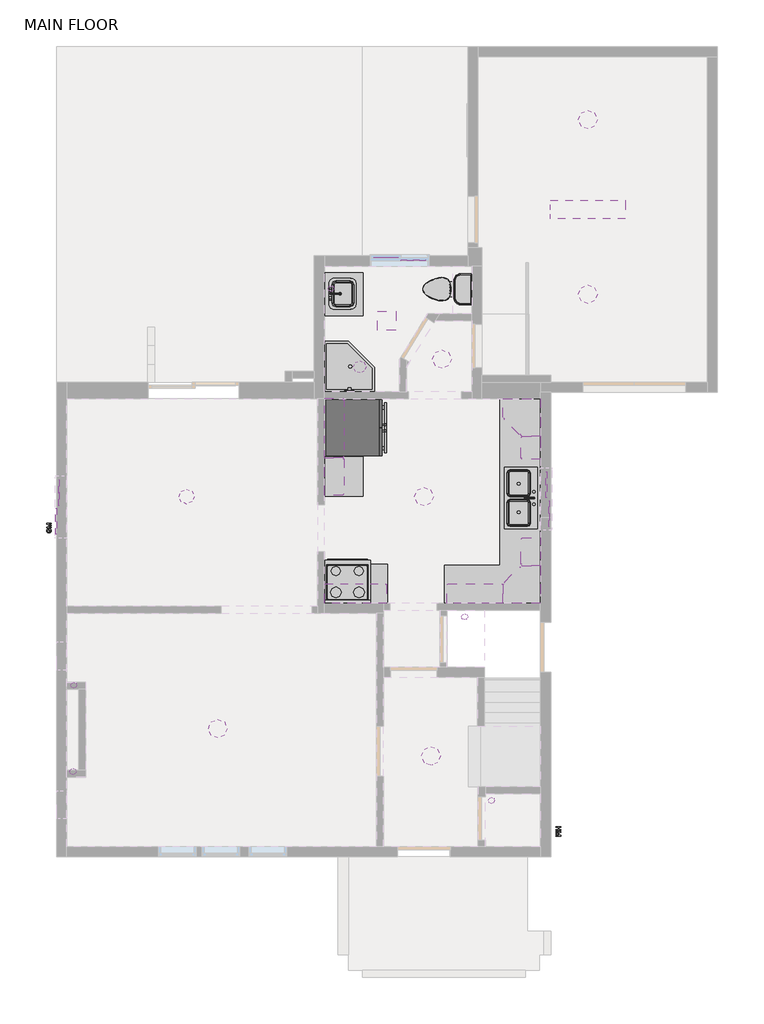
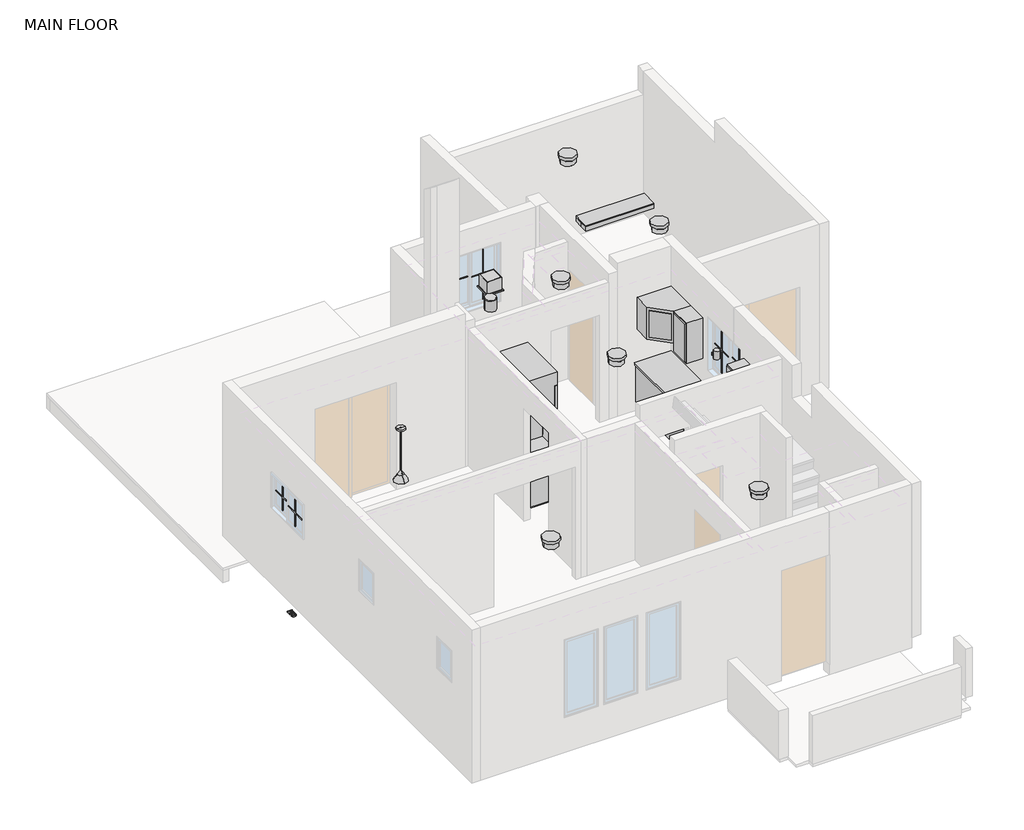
# One storey, part 3 of 3: 17 proxies, 15 light fixtures, 8 furniture elements, 5 flow terminals.
"""IFC4 building model written with IfcOpenShell, lengths in millimetres."""

from ifc_helpers import new_model, si_unit, point, frame, frame_2d, origin, origin_with_axes, place, context, project, spatial, polyline, circle_curve, trimmed, segment, composite_curve, outline, extrude, faceted_brep, transform, mapped, element, save
from ifc_brep_helpers import plane_surface, revolved_surface, advanced_brep
from components import countertop_rectangle_shape_base_1525_x_762mm_0aa604ed, countertop_rectangle_shape_base_1525_x_762mm_2a073e35, exhaust_fan_family1_d98d6599, fridge_900mm_2d12c2bd, gas_meter_family3_9a0b9436, hydro_meter_family3_463d816c, muntin_pattern_2x2_muntin_pattern_2x2_48eb26af, muntin_pattern_2x2_muntin_pattern_2x2_fa83fa09, muntin_pattern_2x2_muntin_pattern_2x2_ace57a09, muntin_pattern_2x2_muntin_pattern_2x2_70805f2e, stove_stove_9706c03c, flow_terminal_a9700879, bath_basin_500_x_440mm_22030706, flow_terminal_49109885, kitchen_double_sink_1000_x_535mm_b63c062c, toilet_toilet_5cb52bd4, toilet_toilet_183bbd19, furniture_a0a301ae, furniture_29d15f0f, furniture_aa3ecf69, furniture_b6349292, furniture_66714404, furniture_e144d364, furniture_e27291b7, furniture_ead23de6, light_fixture_03aafe97, pendant_light_2_0_4026ff0f, light_fixture_643521e1, suspended_fluorescent_light_suspended_fluorescent_light_82c183d2, light_fixture_7ac736ae, light_fixture_691dc656, light_fixture_968d4b6a

model = new_model("IFC4")

# Units and contexts
model_context = context("Model", 3, world=origin())
ifc_project = project(units=[si_unit("LENGTHUNIT", "METRE", prefix="MILLI")], contexts=[model_context])

# Site, building, storey
site = spatial("IfcSite", under=ifc_project)
building = spatial("IfcBuilding", under=site)
storey = spatial("IfcBuildingStorey", under=building, Name="MAIN FLOOR", Elevation=0.0)

# Proxies
placement = place(None, origin())
element("IfcBuildingElementProxy", 1, Name="Countertop- L  Shape base : 1525 x 762mm", ObjectType="Countertop- L  Shape base : 1525 x 762mm", at=placement, inside=storey, context=model_context, shape_type="SolidModel", body=[
    extrude(outline(polyline([(1853.0, 2776.35), (252.1895211, 2776.35), (252.1895211, 3413.1678021), (1154.5, 3413.1678021), (1154.5, 6140.45), (1853.0, 6140.45), (1853.0, 2776.35)]), holes=[polyline([(1764.1, 4004.5), (1764.1, 5004.5), (1229.1, 5004.5), (1229.1, 4004.5), (1764.1, 4004.5)])]), frame((0.0, 0.0, 876.3), z_axis=(0.0, 0.0, 1.0), x_axis=(1.0, 0.0, 0.0)), (0.0, 0.0, 1.0), 38.1),
    extrude(outline(polyline([(372.8395211, 3317.7632183), (1275.15, 3317.7632183), (1275.15, 6038.85), (1713.3, 6038.85), (1713.3, 2897.0), (372.8395211, 2897.0), (372.8395211, 3317.7632183)])), origin_with_axes(), (0.0, 0.0, 1.0), 101.6),
    faceted_brep([(1173.55, 6121.4, 101.6), (1814.9, 6121.4, 101.6), (1814.9, 2795.4, 101.6), (271.2395211, 2795.4, 101.6), (271.2395211, 3394.1178021, 101.6), (1173.55, 3394.1178021, 101.6), (1173.55, 6121.4, 876.3), (1173.55, 3394.1178021, 876.3), (271.2395211, 3394.1178021, 876.3), (271.2395211, 2795.4, 876.3), (1814.9, 2795.4, 876.3), (1814.9, 6121.4, 876.3), (1764.1, 5004.5, 876.3), (1764.1, 4004.5, 876.3), (1229.1, 4004.5, 876.3), (1229.1, 5004.5, 876.3), (1764.1, 4004.5, 366.7605265), (1764.1, 5004.5, 366.7605265), (1229.1, 5004.5, 366.7605265), (1229.1, 4004.5, 366.7605265)], [[[0, 1, 2, 3, 4, 5]], [[6, 7, 8, 9, 10, 11], [12, 13, 14, 15]], [[0, 5, 7, 6]], [[3, 2, 10, 9]], [[2, 1, 11, 10]], [[5, 4, 8, 7]], [[4, 3, 9, 8]], [[1, 0, 6, 11]], [[16, 17, 18, 19]], [[17, 16, 13, 12]], [[18, 17, 12, 15]], [[19, 18, 15, 14]], [[16, 19, 14, 13]]]),
])
element("IfcBuildingElementProxy", 2, Name="Countertop- Rectangle shape base : 1525 x 762mm", ObjectType="Countertop- Rectangle shape base : 1525 x 762mm", at=placement, inside=storey, context=model_context, shape_type="SolidModel", body=[
    extrude(outline(polyline([(-1195.0, 7589.65), (-1601.4, 7589.65), (-1601.4, 8046.85), (-1195.0, 8046.85), (-1195.0, 7589.65)])), origin_with_axes(), (0.0, 0.0, 1.0), 101.6),
    advanced_brep(
    [(-1093.4, 7488.05, 101.6), (-1703.0, 7488.05, 101.6), (-1703.0, 8148.45, 101.6), (-1093.4, 8148.45, 101.6), (-1093.4, 7488.05, 876.3), (-1093.4, 8148.45, 876.3), (-1703.0, 8148.45, 876.3), (-1703.0, 7488.05, 876.3), (-1184.5500001, 7663.5, 876.3), (-1273.4499999, 7574.6000001, 876.3), (-1561.0500001, 7574.6000001, 876.3), (-1624.5500001, 7638.1000001, 876.3), (-1624.5500001, 8011.1, 876.3), (-1561.0500001, 8074.6, 876.3), (-1268.9000672, 8074.6, 876.3), (-1184.5500001, 7990.2499329, 876.3), (-1273.4499999, 7574.6000001, 562.7380761), (-1184.5500001, 7663.5, 562.7380761), (-1184.5500001, 7990.2499329, 562.7380761), (-1268.9000672, 8074.6, 562.7380761), (-1561.0500001, 8074.6, 562.7380761), (-1624.5500001, 8011.1, 562.7380761), (-1624.5500001, 7638.1000001, 562.7380761), (-1561.0500001, 7574.6000001, 562.7380761)],
    [
        (0, 1),
        (1, 2),
        (2, 3),
        (3, 0),
        (4, 5),
        (5, 6),
        (6, 7),
        (7, 4),
        (8, 9, circle_curve(frame((-1273.4499999, 7663.5, 876.3), z_axis=(0.0, 0.0, -1.0), x_axis=(0.0, 1.0, 0.0)), 88.8999999)),
        (9, 10),
        (10, 11, circle_curve(frame((-1561.0500001, 7638.1000001, 876.3), z_axis=(0.0, 0.0, -1.0), x_axis=(0.0, 1.0, 0.0)), 63.5)),
        (11, 12),
        (12, 13, circle_curve(frame((-1561.0500001, 8011.1, 876.3), z_axis=(0.0, 0.0, -1.0), x_axis=(0.0, 1.0, 0.0)), 63.5)),
        (13, 14),
        (14, 15, circle_curve(frame((-1268.9000672, 7990.2499329, 876.3), z_axis=(0.0, 0.0, -1.0), x_axis=(0.0, 1.0, 0.0)), 84.3500671)),
        (15, 8),
        (3, 5),
        (4, 0),
        (2, 6),
        (1, 7),
        (16, 17, circle_curve(frame((-1273.4499999, 7663.5, 562.7380761), z_axis=(0.0, 0.0, 1.0), x_axis=(0.0, 1.0, 0.0)), 88.8999999)),
        (17, 18),
        (18, 19, circle_curve(frame((-1268.9000672, 7990.2499329, 562.7380761), z_axis=(0.0, 0.0, 1.0), x_axis=(0.0, 1.0, 0.0)), 84.3500671)),
        (19, 20),
        (20, 21, circle_curve(frame((-1561.0500001, 8011.1, 562.7380761), z_axis=(0.0, 0.0, 1.0), x_axis=(0.0, 1.0, 0.0)), 63.5)),
        (21, 22),
        (22, 23, circle_curve(frame((-1561.0500001, 7638.1000001, 562.7380761), z_axis=(0.0, 0.0, 1.0), x_axis=(0.0, 1.0, 0.0)), 63.5)),
        (23, 16),
        (16, 9),
        (8, 17),
        (15, 18),
        (14, 19),
        (13, 20),
        (12, 21),
        (11, 22),
        (10, 23),
    ],
    [
        plane_surface(frame((-1093.4, 8148.45, 101.6), z_axis=(0.0, 0.0, -1.0), x_axis=(0.0, -1.0, 0.0))),
        plane_surface(frame((-1093.4, 8148.45, 876.3), z_axis=(0.0, 0.0, 1.0), x_axis=(0.0, 1.0, 0.0))),
        plane_surface(frame((-1093.4, 7488.05, 876.3), z_axis=(1.0, 0.0, 0.0), x_axis=(0.0, 0.0, -1.0))),
        plane_surface(frame((-1093.4, 8148.45, 876.3), z_axis=(0.0, 1.0, 0.0), x_axis=(0.0, 0.0, -1.0))),
        plane_surface(frame((-1703.0, 8148.45, 876.3), z_axis=(-1.0, 0.0, 0.0), x_axis=(0.0, 0.0, -1.0))),
        plane_surface(frame((-1703.0, 7488.05, 876.3), z_axis=(0.0, -1.0, 0.0), x_axis=(0.0, 0.0, -1.0))),
        plane_surface(frame((-1273.4499999, 7752.3999999, 562.7380761), z_axis=(0.0, 0.0, 1.0), x_axis=(1.0, 0.0, 0.0))),
        revolved_surface(polyline([(-1273.4499999, 7752.3999999, 876.3), (-1273.4499999, 7752.3999999, 562.7380761)]), (-1273.4499999, 7663.5, 562.7380761), (0.0, 0.0, 1.0)),
        plane_surface(frame((-1184.5500001, 7663.5, 965.2), z_axis=(-1.0, 0.0, 0.0), x_axis=(0.0, 0.0, -1.0))),
        revolved_surface(polyline([(-1268.9000672, 8074.6, 876.3), (-1268.9000672, 8074.6, 562.7380761)]), (-1268.9000672, 7990.2499329, 562.7380761), (0.0, 0.0, 1.0)),
        plane_surface(frame((-1268.9000672, 8074.6, 965.2), z_axis=(0.0, -1.0, 0.0), x_axis=(0.0, 0.0, -1.0))),
        revolved_surface(polyline([(-1561.0500001, 8074.6, 876.3), (-1561.0500001, 8074.6, 562.7380761)]), (-1561.0500001, 8011.1, 562.7380761), (0.0, 0.0, 1.0)),
        plane_surface(frame((-1624.5500001, 8011.1, 965.2), z_axis=(1.0, 0.0, 0.0), x_axis=(0.0, 0.0, -1.0))),
        revolved_surface(polyline([(-1561.0500001, 7701.6000001, 876.3), (-1561.0500001, 7701.6000001, 562.7380761)]), (-1561.0500001, 7638.1000001, 562.7380761), (0.0, 0.0, 1.0)),
        plane_surface(frame((-1561.0500001, 7574.6000001, 965.2), z_axis=(0.0, 1.0, 0.0), x_axis=(0.0, 0.0, -1.0))),
    ],
    [
        (0, [[1, 2, 3, 4]]),
        (1, [[5, 6, 7, 8], [9, 10, 11, 12, 13, 14, 15, 16]]),
        (2, [[-4, 17, -5, 18]]),
        (3, [[-3, 19, -6, -17]]),
        (4, [[-2, 20, -7, -19]]),
        (5, [[-1, -18, -8, -20]]),
        (6, [[21, 22, 23, 24, 25, 26, 27, 28]]),
        (7, [[-21, 29, -9, 30]]),
        (8, [[-22, -30, -16, 31]]),
        (9, [[-23, -31, -15, 32]]),
        (10, [[-24, -32, -14, 33]]),
        (11, [[-25, -33, -13, 34]]),
        (12, [[-26, -34, -12, 35]]),
        (13, [[-27, -35, -11, 36]]),
        (14, [[-28, -36, -10, -29]]),
    ],
),
    extrude(outline(polyline([(-1722.05, 8167.5), (-1074.35, 8167.5), (-1074.35, 7469.0), (-1722.05, 7469.0), (-1722.05, 8167.5)]), holes=[composite_curve([segment(trimmed(circle_curve(frame_2d((-1273.4499999, 7663.5)), 88.8999999), [point((-1273.4499999, 7574.6000001))], [point((-1184.5500001, 7663.5))], True, "CARTESIAN"), True, "CONTINUOUS"), segment(polyline([(-1184.5500001, 7663.5), (-1184.5500001, 7990.2499329)]), True, "CONTINUOUS"), segment(trimmed(circle_curve(frame_2d((-1268.9000672, 7990.2499329)), 84.3500671), [point((-1184.5500001, 7990.2499329))], [point((-1268.9000672, 8074.6))], True, "CARTESIAN"), True, "CONTINUOUS"), segment(polyline([(-1268.9000672, 8074.6), (-1561.0500001, 8074.6)]), True, "CONTINUOUS"), segment(trimmed(circle_curve(frame_2d((-1561.0500001, 8011.1)), 63.5), [point((-1561.0500001, 8074.6))], [point((-1624.5500001, 8011.1))], True, "CARTESIAN"), True, "CONTINUOUS"), segment(polyline([(-1624.5500001, 8011.1), (-1624.5500001, 7638.1000001)]), True, "CONTINUOUS"), segment(trimmed(circle_curve(frame_2d((-1561.0500001, 7638.1000001)), 63.5), [point((-1624.5500001, 7638.1000001))], [point((-1561.0500001, 7574.6000001))], True, "CARTESIAN"), True, "CONTINUOUS"), segment(polyline([(-1561.0500001, 7574.6000001), (-1273.4499999, 7574.6000001)]), True, "CONTINUOUS")], self_intersect=False)]), frame((0.0, 0.0, 876.3), z_axis=(0.0, 0.0, 1.0), x_axis=(1.0, 0.0, 0.0)), (0.0, 0.0, 1.0), 38.1),
])
countertop_rectangle_shape_base_1525_x_762mm_shape = countertop_rectangle_shape_base_1525_x_762mm_0aa604ed(model_context)
element("IfcBuildingElementProxy", 3, Name="Countertop- Rectangle shape base : 1525 x 762mm", ObjectType="Countertop- Rectangle shape base : 1525 x 762mm", at=placement, inside=storey, context=model_context, shape_type="MappedRepresentation", body=[
    mapped(countertop_rectangle_shape_base_1525_x_762mm_shape, transform((-1581.4281751, 2719.2, 0.0), x_axis=(1.0, 0.0, 0.0), y_axis=(0.0, 1.0, 0.0), z_axis=(0.0, 0.0, 1.0))),
])
countertop_rectangle_shape_base_1525_x_762mm_2_shape = countertop_rectangle_shape_base_1525_x_762mm_2a073e35(model_context)
element("IfcBuildingElementProxy", 4, Name="Countertop- Rectangle shape base : 1525 x 762mm", ObjectType="Countertop- Rectangle shape base : 1525 x 762mm", at=placement, inside=storey, context=model_context, shape_type="MappedRepresentation", body=[
    mapped(countertop_rectangle_shape_base_1525_x_762mm_2_shape, transform((-1779.2, 5615.3, 0.0), x_axis=(0.0, -1.0, 0.0), y_axis=(1.0, 0.0, 0.0), z_axis=(0.0, 0.0, 1.0))),
])
exhaust_fan_family1_shape = exhaust_fan_family1_d98d6599(model_context)
element("IfcBuildingElementProxy", 5, Name="Exhaust Fan : Family1", ObjectType="Exhaust Fan : Family1", at=placement, inside=storey, context=model_context, shape_type="MappedRepresentation", body=[
    mapped(exhaust_fan_family1_shape, transform((-688.9460315, 7386.45, 0.0), x_axis=(1.0, 0.0, 0.0), y_axis=(0.0, 1.0, 0.0), z_axis=(0.0, 0.0, 1.0))),
])
fridge_900mm_shape = fridge_900mm_2d12c2bd(model_context)
element("IfcBuildingElementProxy", 6, Name="Fridge : 900mm", ObjectType="Fridge : 900mm", at=placement, inside=storey, context=model_context, shape_type="MappedRepresentation", body=[
    mapped(fridge_900mm_shape, transform((-1777.6, 5646.0, 0.0), x_axis=(0.0, 1.0, 0.0), y_axis=(-1.0, 0.0, 0.0), z_axis=(0.0, 0.0, 1.0))),
])
gas_meter_family3_shape = gas_meter_family3_9a0b9436(model_context)
element("IfcBuildingElementProxy", 7, Name="Gas Meter : Family3", ObjectType="Gas Meter : Family3", at=placement, inside=storey, context=model_context, shape_type="MappedRepresentation", body=[
    mapped(gas_meter_family3_shape, transform((-6059.1, 3833.6181137, 0.0), x_axis=(0.0, 1.0, 0.0), y_axis=(-1.0, 0.0, 0.0), z_axis=(0.0, 0.0, 1.0))),
])
hydro_meter_family3_shape = hydro_meter_family3_463d816c(model_context)
element("IfcBuildingElementProxy", 8, Name="Hydro Meter : Family3", ObjectType="Hydro Meter : Family3", at=placement, inside=storey, context=model_context, shape_type="MappedRepresentation", body=[
    mapped(hydro_meter_family3_shape, transform((1980.747714, -731.9794, 0.0), x_axis=(0.0, -1.0, 0.0), y_axis=(1.0, 0.0, 0.0), z_axis=(0.0, 0.0, 1.0))),
])
muntin_pattern_2x2_muntin_pattern_2x2_shape = muntin_pattern_2x2_muntin_pattern_2x2_48eb26af(model_context)
element("IfcBuildingElementProxy", 9, Name="Muntin Pattern_2x2 : Muntin Pattern_2x2", ObjectType="Muntin Pattern_2x2 : Muntin Pattern_2x2", at=placement, inside=storey, context=model_context, shape_type="MappedRepresentation", body=[
    mapped(muntin_pattern_2x2_muntin_pattern_2x2_shape, transform((-6005.125, 4590.8625, 1555.75), x_axis=(0.0, 1.0, 0.0), y_axis=(-1.0, 0.0, 0.0), z_axis=(0.0, 0.0, 1.0))),
])
element("IfcBuildingElementProxy", 10, Name="Muntin Pattern_2x2 : Muntin Pattern_2x2", ObjectType="Muntin Pattern_2x2 : Muntin Pattern_2x2", at=placement, inside=storey, context=model_context, shape_type="MappedRepresentation", body=[
    mapped(muntin_pattern_2x2_muntin_pattern_2x2_shape, transform((-6049.575, 4124.1375, 1555.75), x_axis=(0.0, 1.0, 0.0), y_axis=(-1.0, 0.0, 0.0), z_axis=(0.0, 0.0, 1.0))),
])
muntin_pattern_2x2_muntin_pattern_2x2_2_shape = muntin_pattern_2x2_muntin_pattern_2x2_fa83fa09(model_context)
element("IfcBuildingElementProxy", 11, Name="Muntin Pattern_2x2 : Muntin Pattern_2x2", ObjectType="Muntin Pattern_2x2 : Muntin Pattern_2x2", at=placement, inside=storey, context=model_context, shape_type="MappedRepresentation", body=[
    mapped(muntin_pattern_2x2_muntin_pattern_2x2_2_shape, transform((1926.025, 4718.8125, 1301.75), x_axis=(0.0, 1.0, 0.0), y_axis=(-1.0, 0.0, 0.0), z_axis=(0.0, 0.0, 1.0))),
])
element("IfcBuildingElementProxy", 12, Name="Muntin Pattern_2x2 : Muntin Pattern_2x2", ObjectType="Muntin Pattern_2x2 : Muntin Pattern_2x2", at=placement, inside=storey, context=model_context, shape_type="MappedRepresentation", body=[
    mapped(muntin_pattern_2x2_muntin_pattern_2x2_2_shape, transform((1970.475, 4252.0875, 1301.75), x_axis=(0.0, 1.0, 0.0), y_axis=(-1.0, 0.0, 0.0), z_axis=(0.0, 0.0, 1.0))),
])
muntin_pattern_2x2_muntin_pattern_2x2_3_shape = muntin_pattern_2x2_muntin_pattern_2x2_ace57a09(model_context)
element("IfcBuildingElementProxy", 13, Name="Muntin Pattern_2x2 : Muntin Pattern_2x2", ObjectType="Muntin Pattern_2x2 : Muntin Pattern_2x2", at=placement, inside=storey, context=model_context, shape_type="MappedRepresentation", body=[
    mapped(muntin_pattern_2x2_muntin_pattern_2x2_3_shape, transform((-256.7875, 8386.575, 1250.95), x_axis=(1.0, 0.0, 0.0), y_axis=(0.0, 1.0, 0.0), z_axis=(0.0, 0.0, 1.0))),
])
element("IfcBuildingElementProxy", 14, Name="Muntin Pattern_2x2 : Muntin Pattern_2x2", ObjectType="Muntin Pattern_2x2 : Muntin Pattern_2x2", at=placement, inside=storey, context=model_context, shape_type="MappedRepresentation", body=[
    mapped(muntin_pattern_2x2_muntin_pattern_2x2_3_shape, transform((-698.1125, 8431.025, 1250.95), x_axis=(1.0, 0.0, 0.0), y_axis=(0.0, 1.0, 0.0), z_axis=(0.0, 0.0, 1.0))),
])
muntin_pattern_2x2_muntin_pattern_2x2_4_shape = muntin_pattern_2x2_muntin_pattern_2x2_70805f2e(model_context)
element("IfcBuildingElementProxy", 15, Name="Muntin Pattern_2x2 : Muntin Pattern_2x2", ObjectType="Muntin Pattern_2x2 : Muntin Pattern_2x2", at=placement, inside=storey, context=model_context, shape_type="MappedRepresentation", body=[
    mapped(muntin_pattern_2x2_muntin_pattern_2x2_4_shape, transform((687.775, 10676.7125, 133.35), x_axis=(0.0, 1.0, 0.0), y_axis=(-1.0, 0.0, 0.0), z_axis=(0.0, 0.0, 1.0))),
])
element("IfcBuildingElementProxy", 16, Name="Muntin Pattern_2x2 : Muntin Pattern_2x2", ObjectType="Muntin Pattern_2x2 : Muntin Pattern_2x2", at=placement, inside=storey, context=model_context, shape_type="MappedRepresentation", body=[
    mapped(muntin_pattern_2x2_muntin_pattern_2x2_4_shape, transform((643.325, 10286.1875, 133.35), x_axis=(0.0, 1.0, 0.0), y_axis=(-1.0, 0.0, 0.0), z_axis=(0.0, 0.0, 1.0))),
])
stove_stove_shape = stove_stove_9706c03c(model_context)
element("IfcBuildingElementProxy", 17, Name="Stove : Stove", ObjectType="Stove : Stove", at=placement, inside=storey, context=model_context, shape_type="MappedRepresentation", body=[
    mapped(stove_stove_shape, transform((-1328.35, 2795.4, 0.0), x_axis=(-1.0, 0.0, 0.0), y_axis=(0.0, -1.0, 0.0), z_axis=(0.0, 0.0, 1.0))),
])

# Flow terminals
flow_terminal_shape = flow_terminal_a9700879(model_context)
element("IfcFlowTerminal", 18, ObjectType="Bath-Showerhead : Shower_head_and_Control_-_UNHOSTED_17702", at=placement, inside=storey, context=model_context, shape_type="MappedRepresentation", body=[
    mapped(flow_terminal_shape, transform((-1295.5, 6235.7, 0.0), x_axis=(-1.0, 0.0, 0.0), y_axis=(0.0, -1.0, 0.0), z_axis=(0.0, 0.0, 1.0))),
])
bath_basin_500_x_440mm_shape = bath_basin_500_x_440mm_22030706(model_context)
element("IfcFlowTerminal", 19, ObjectType="Bath-Basin : 500 x 440mm", at=placement, inside=storey, context=model_context, shape_type="MappedRepresentation", body=[
    mapped(bath_basin_500_x_440mm_shape, transform((-1444.4045989, 7808.9107594, 139.7), x_axis=(0.0, 1.0, 0.0), y_axis=(-1.0, 0.0, 0.0), z_axis=(0.0, 0.0, 1.0))),
])
flow_terminal_2_shape = flow_terminal_49109885(model_context)
element("IfcFlowTerminal", 20, ObjectType="Bath-Corner Shower Basin : 2'-8\"x2'-10", at=placement, inside=storey, context=model_context, shape_type="MappedRepresentation", body=[
    mapped(flow_terminal_2_shape, transform((-1714.9, 6235.7, 0.0), x_axis=(1.0, 0.0, 0.0), y_axis=(0.0, 1.0, 0.0), z_axis=(0.0, 0.0, 1.0))),
])
kitchen_double_sink_1000_x_535mm_shape = kitchen_double_sink_1000_x_535mm_b63c062c(model_context)
element("IfcFlowTerminal", 21, ObjectType="Kitchen-Double Sink : 1000 x 535mm", at=placement, inside=storey, context=model_context, shape_type="MappedRepresentation", body=[
    mapped(kitchen_double_sink_1000_x_535mm_shape, transform((1494.2545989, 4520.1892406, 152.4), x_axis=(0.0, -1.0, 0.0), y_axis=(1.0, 0.0, 0.0), z_axis=(0.0, 0.0, 1.0))),
])
toilet_toilet_shape = toilet_toilet_5cb52bd4(model_context)
toilet_toilet_2_shape = toilet_toilet_183bbd19(model_context)
element("IfcFlowTerminal", 22, ObjectType="Toilet : Toilet", at=placement, inside=storey, context=model_context, shape_type="MappedRepresentation", body=[
    mapped(toilet_toilet_shape, transform((202.6039726, 7900.1960274, 0.0), x_axis=(0.0, -1.0, 0.0), y_axis=(1.0, 0.0, 0.0), z_axis=(0.0, 0.0, 1.0))),
    mapped(toilet_toilet_2_shape, transform((202.6039726, 7900.1960274, 0.0), x_axis=(0.0, -1.0, 0.0), y_axis=(1.0, 0.0, 0.0), z_axis=(0.0, 0.0, 1.0))),
])

# Furniture
furniture_shape = furniture_a0a301ae(model_context)
element("IfcFurniture", 23, ObjectType="Upper Cabinet-Corner Unit-Wall : 12\" Depth", at=placement, inside=storey, context=model_context, shape_type="MappedRepresentation", body=[
    mapped(furniture_shape, transform((1897.45, 2841.8288372, 0.0), x_axis=(0.0, 1.0, 0.0), y_axis=(-1.0, 0.0, 0.0), z_axis=(0.0, 0.0, 1.0))),
])
furniture_2_shape = furniture_29d15f0f(model_context)
element("IfcFurniture", 24, ObjectType="Upper Cabinet-Corner Unit-Wall : 12\" Depth", at=placement, inside=storey, context=model_context, shape_type="MappedRepresentation", body=[
    mapped(furniture_2_shape, transform((1768.4711628, 6254.75, 0.0), x_axis=(-1.0, 0.0, 0.0), y_axis=(0.0, -1.0, 0.0), z_axis=(0.0, 0.0, 1.0))),
])
furniture_3_shape = furniture_aa3ecf69(model_context)
element("IfcFurniture", 25, ObjectType="Upper Cabinet-Single Door-Wall : 9\"", at=placement, inside=storey, context=model_context, shape_type="MappedRepresentation", body=[
    mapped(furniture_3_shape, transform((-1760.15, 4806.8711628, 0.0), x_axis=(0.0, -1.0, 0.0), y_axis=(1.0, 0.0, 0.0), z_axis=(0.0, 0.0, 1.0))),
])
furniture_4_shape = furniture_b6349292(model_context)
element("IfcFurniture", 26, ObjectType="Upper Cabinet-Single Door-Wall : 9\"", at=placement, inside=storey, context=model_context, shape_type="MappedRepresentation", body=[
    mapped(furniture_4_shape, transform((1897.45, 5253.4288372, 0.0), x_axis=(0.0, 1.0, 0.0), y_axis=(-1.0, 0.0, 0.0), z_axis=(0.0, 0.0, 1.0))),
])
furniture_5_shape = furniture_66714404(model_context)
element("IfcFurniture", 27, ObjectType="Upper Cabinet-Single Door-Wall : 9\"", at=placement, inside=storey, context=model_context, shape_type="MappedRepresentation", body=[
    mapped(furniture_5_shape, transform((1897.45, 3603.8288372, 0.0), x_axis=(0.0, 1.0, 0.0), y_axis=(-1.0, 0.0, 0.0), z_axis=(0.0, 0.0, 1.0))),
])
furniture_6_shape = furniture_e144d364(model_context)
element("IfcFurniture", 28, ObjectType="Upper Cabinet-Single Door-Wall : 9\"", at=placement, inside=storey, context=model_context, shape_type="MappedRepresentation", body=[
    mapped(furniture_6_shape, transform((946.9288372, 2738.25, 0.0), x_axis=(1.0, 0.0, 0.0), y_axis=(0.0, 1.0, 0.0), z_axis=(0.0, 0.0, 1.0))),
])
furniture_7_shape = furniture_e27291b7(model_context)
element("IfcFurniture", 29, ObjectType="Upper Cabinet-Single Door-Wall : 9\"", at=placement, inside=storey, context=model_context, shape_type="MappedRepresentation", body=[
    mapped(furniture_7_shape, transform((-1760.15, 5415.0692559, 0.0), x_axis=(0.0, -1.0, 0.0), y_axis=(1.0, 0.0, 0.0), z_axis=(0.0, 0.0, 1.0))),
])
furniture_8_shape = furniture_ead23de6(model_context)
element("IfcFurniture", 30, ObjectType="Upper Cabinet-Single Door-Wall : 9\"", at=placement, inside=storey, context=model_context, shape_type="MappedRepresentation", body=[
    mapped(furniture_8_shape, transform((-951.7211628, 2712.85, 0.0), x_axis=(1.0, 0.0, 0.0), y_axis=(0.0, 1.0, 0.0), z_axis=(0.0, 0.0, 1.0))),
])

# Light fixtures
light_fixture_shape = light_fixture_03aafe97(model_context)
element("IfcLightFixture", 31, ObjectType="Ceiling Mounted Light : 2-0\"", at=placement, inside=storey, context=model_context, shape_type="MappedRepresentation", body=[
    mapped(light_fixture_shape, transform((2583.25, 7816.8411335, -422.6843635), x_axis=(-1.0, 0.0, 0.0), y_axis=(0.0, -1.0, 0.0), z_axis=(0.0, 0.0, 1.0))),
])
element("IfcLightFixture", 32, ObjectType="Ceiling Mounted Light : 2-0\"", at=placement, inside=storey, context=model_context, shape_type="MappedRepresentation", body=[
    mapped(light_fixture_shape, transform((2583.25, 10656.0617226, -858.847717), x_axis=(-1.0, 0.0, 0.0), y_axis=(0.0, -1.0, 0.0), z_axis=(0.0, 0.0, 1.0))),
])
element("IfcLightFixture", 33, ObjectType="Ceiling Mounted Light : 2-0\"", at=placement, inside=storey, context=model_context, shape_type="MappedRepresentation", body=[
    mapped(light_fixture_shape, transform((208.35, 6764.15, 0.0), x_axis=(1.0, 0.0, 0.0), y_axis=(0.0, 1.0, 0.0), z_axis=(0.0, 0.0, 1.0))),
])
element("IfcLightFixture", 34, ObjectType="Ceiling Mounted Light : 2-0\"", at=placement, inside=storey, context=model_context, shape_type="MappedRepresentation", body=[
    mapped(light_fixture_shape, transform((-83.75, 4527.55, 0.0), x_axis=(1.0, 0.0, 0.0), y_axis=(0.0, 1.0, 0.0), z_axis=(0.0, 0.0, 1.0))),
])
element("IfcLightFixture", 35, ObjectType="Ceiling Mounted Light : 2-0\"", at=placement, inside=storey, context=model_context, shape_type="MappedRepresentation", body=[
    mapped(light_fixture_shape, transform((-3436.55, 757.05, 0.0), x_axis=(1.0, 0.0, 0.0), y_axis=(0.0, 1.0, 0.0), z_axis=(0.0, 0.0, 1.0))),
])
element("IfcLightFixture", 36, ObjectType="Ceiling Mounted Light : 2-0\"", at=placement, inside=storey, context=model_context, shape_type="MappedRepresentation", body=[
    mapped(light_fixture_shape, transform((30.55, 311.15, 0.0), x_axis=(1.0, 0.0, 0.0), y_axis=(0.0, 1.0, 0.0), z_axis=(0.0, 0.0, 1.0))),
])
pendant_light_2_0_shape = pendant_light_2_0_4026ff0f(model_context)
element("IfcLightFixture", 37, ObjectType="Pendant Light : 2'-0", at=placement, inside=storey, context=model_context, shape_type="MappedRepresentation", body=[
    mapped(pendant_light_2_0_shape, transform((-3944.55, 4527.55, 0.0), x_axis=(1.0, 0.0, 0.0), y_axis=(0.0, 1.0, 0.0), z_axis=(0.0, 0.0, 1.0))),
])
light_fixture_2_shape = light_fixture_643521e1(model_context)
element("IfcLightFixture", 38, ObjectType="Recessed Pot Light : 8\"", at=placement, inside=storey, context=model_context, shape_type="MappedRepresentation", body=[
    mapped(light_fixture_2_shape, transform((-1125.15, 6637.15, 0.0), x_axis=(1.0, 0.0, 0.0), y_axis=(0.0, 1.0, 0.0), z_axis=(0.0, 0.0, 1.0))),
])
suspended_fluorescent_light_suspended_fluorescent_light_shape = suspended_fluorescent_light_suspended_fluorescent_light_82c183d2(model_context)
element("IfcLightFixture", 39, ObjectType="Suspended Fluorescent Light : Suspended Fluorescent Light", at=placement, inside=storey, context=model_context, shape_type="MappedRepresentation", body=[
    mapped(suspended_fluorescent_light_suspended_fluorescent_light_shape, transform((2583.25, 9194.6792929, -634.3489712), x_axis=(-1.0, 0.0, 0.0), y_axis=(0.0, -1.0, 0.0), z_axis=(0.0, 0.0, 1.0))),
])
light_fixture_3_shape = light_fixture_7ac736ae(model_context)
element("IfcLightFixture", 40, ObjectType="Wall Mounted Light : 4\"", at=placement, inside=storey, context=model_context, shape_type="MappedRepresentation", body=[
    mapped(light_fixture_3_shape, transform((-1328.35, 8358.0, -2438.4), x_axis=(-1.0, 0.0, 0.0), y_axis=(0.0, -1.0, 0.0), z_axis=(0.0, 0.0, 1.0))),
])
light_fixture_4_shape = light_fixture_691dc656(model_context)
element("IfcLightFixture", 41, ObjectType="Wall Mounted Light : 4\"", at=placement, inside=storey, context=model_context, shape_type="MappedRepresentation", body=[
    mapped(light_fixture_4_shape, transform((-1779.2, 7907.15, -2438.4), x_axis=(0.0, -1.0, 0.0), y_axis=(1.0, 0.0, 0.0), z_axis=(0.0, 0.0, 1.0))),
])
element("IfcLightFixture", 42, ObjectType="Wall Mounted Light : 4\"", at=placement, inside=storey, context=model_context, shape_type="MappedRepresentation", body=[
    mapped(light_fixture_4_shape, transform((-5963.85, 1460.8648571, -2438.4), x_axis=(0.0, -1.0, 0.0), y_axis=(1.0, 0.0, 0.0), z_axis=(0.0, 0.0, 1.0))),
])
element("IfcLightFixture", 43, ObjectType="Wall Mounted Light : 4\"", at=placement, inside=storey, context=model_context, shape_type="MappedRepresentation", body=[
    mapped(light_fixture_4_shape, transform((1015.2962839, -228.6, -2438.4), x_axis=(-1.0, 0.0, 0.0), y_axis=(0.0, -1.0, 0.0), z_axis=(0.0, 0.0, 1.0))),
])
element("IfcLightFixture", 44, ObjectType="Wall Mounted Light : 4\"", at=placement, inside=storey, context=model_context, shape_type="MappedRepresentation", body=[
    mapped(light_fixture_4_shape, transform((-5976.55, 57.15, -2438.4), x_axis=(0.0, -1.0, 0.0), y_axis=(1.0, 0.0, 0.0), z_axis=(0.0, 0.0, 1.0))),
])
light_fixture_5_shape = light_fixture_968d4b6a(model_context)
element("IfcLightFixture", 45, ObjectType="Wall Mounted Light : 4\"", at=placement, inside=storey, context=model_context, shape_type="MappedRepresentation", body=[
    mapped(light_fixture_5_shape, transform((580.8302956, 2757.3, -2438.4), x_axis=(-1.0, 0.0, 0.0), y_axis=(0.0, -1.0, 0.0), z_axis=(0.0, 0.0, 1.0))),
])

save(model, "model.ifc")
